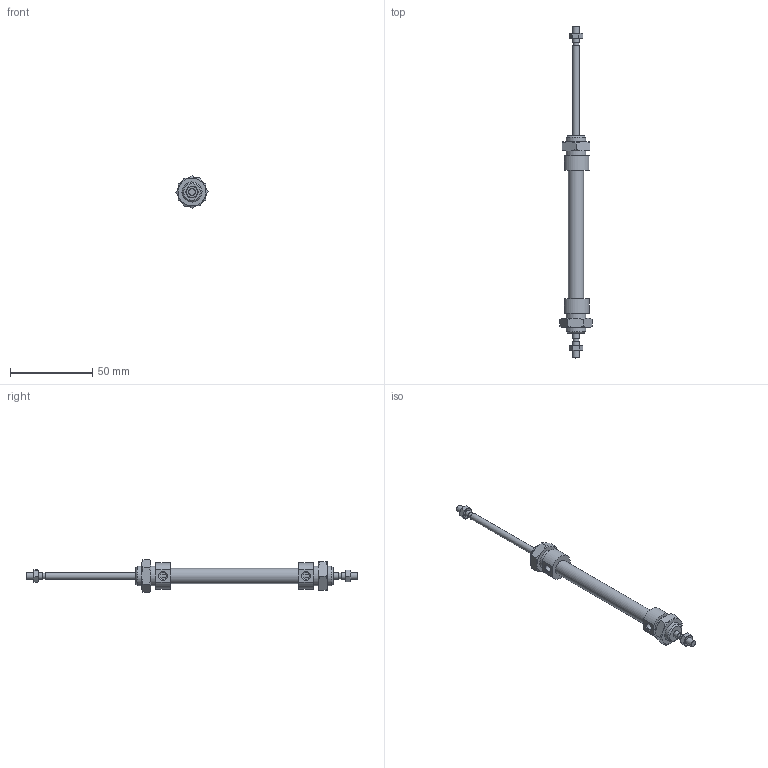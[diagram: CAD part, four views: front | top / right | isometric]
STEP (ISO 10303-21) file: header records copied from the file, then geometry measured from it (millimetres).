
FILE_DESCRIPTION((''),'2;1');
FILE_NAME('I:\Area Tecnica\Disegni\VARIE-3D\Componenti\1280\1282_##_####_#\1282_08_0050.iam.stp','2009-06-03T15:23:16',(''),(''),'Autodesk Inventor 2010','Autodesk Inventor 2010','');
FILE_SCHEMA(('AUTOMOTIVE_DESIGN { 1 0 10303 214 1 1 1 1 }'));
Length unit declared in the file: millimetre
Products named in the file (5): 1282_08_0050; C1282_08_50; S1282_08_50; 1200_08_05; 1200_08_06
Assembly tree (6 placements, depth 2):
  1282_08_0050
    C1282_08_50
    S1282_08_50
    1200_08_05  x2
    1200_08_06  x2
Bounding box: 19.63 x 202 x 19.63 mm (x, y, z)
Volume: 14159.7 mm3; surface area: 10697.7 mm2
Topology: 6 solids, 6 shells, 127 faces, 271 edges, 162 vertices
Faces by surface type: cone 52, plane 46, bspline 18, cylinder 11
Full cylindrical faces by diameter (mm): 3.5 x2, 4 x4, 9.2 x1, 12 x2
Entity records: 2371 total; most frequent: CARTESIAN_POINT 641, DIRECTION 310, ORIENTED_EDGE 280, AXIS2_PLACEMENT_3D 143, EDGE_CURVE 140, EDGE_LOOP 120, VERTEX_POINT 96, STYLED_ITEM 85
